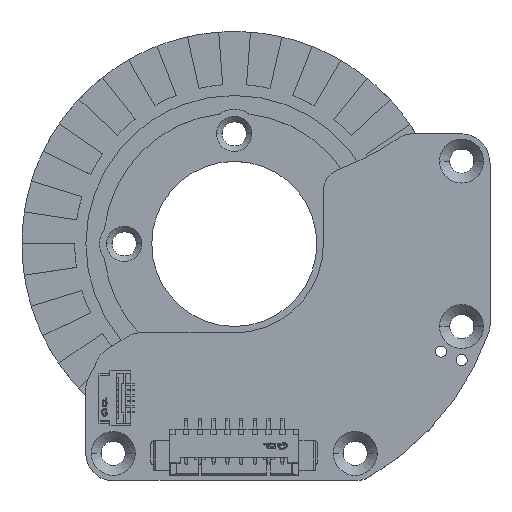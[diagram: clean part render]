
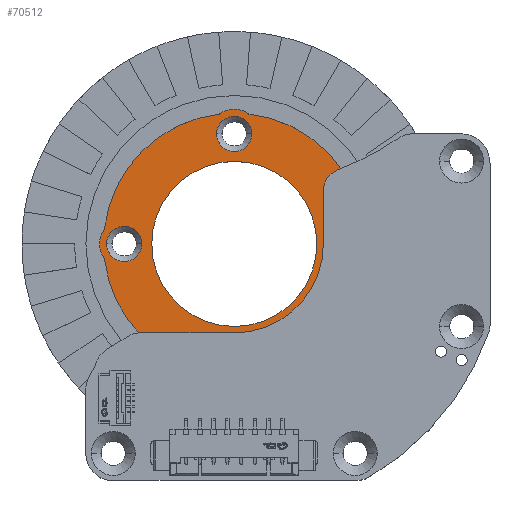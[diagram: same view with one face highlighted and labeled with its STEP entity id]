
A CAD part, top view. The second image highlights one B-rep face of the part: STEP entity #70512.
In plain terms, the highlighted planar face has unit normal (0, 0, 1) as drawn and (0, 1, 0) by its records, which use the part's own axes.
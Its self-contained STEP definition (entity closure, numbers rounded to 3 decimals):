
#67562=CARTESIAN_POINT('',(0.,1.2,0.));
#67563=DIRECTION('',(0.,-1.,0.));
#67564=DIRECTION('',(1.,0.,0.));
#67565=AXIS2_PLACEMENT_3D('',#67562,#67563,#67564);
#67570=CARTESIAN_POINT('',(0.,1.2,0.));
#67571=DIRECTION('',(0.,-1.,0.));
#67572=DIRECTION('',(-1.,0.,0.));
#67573=AXIS2_PLACEMENT_3D('',#67570,#67571,#67572);
#67872=CARTESIAN_POINT('',(10.,1.2,0.));
#67873=DIRECTION('',(0.,-1.,0.));
#67874=DIRECTION('',(1.,0.,0.));
#67875=AXIS2_PLACEMENT_3D('',#67872,#67873,#67874);
#67880=CARTESIAN_POINT('',(10.,1.2,0.));
#67881=DIRECTION('',(0.,-1.,0.));
#67882=DIRECTION('',(-1.,0.,0.));
#67883=AXIS2_PLACEMENT_3D('',#67880,#67881,#67882);
#67888=CARTESIAN_POINT('',(0.,1.2,10.));
#67889=DIRECTION('',(0.,-1.,0.));
#67890=DIRECTION('',(-1.,0.,0.));
#67891=AXIS2_PLACEMENT_3D('',#67888,#67889,#67890);
#67896=CARTESIAN_POINT('',(0.,1.2,10.));
#67897=DIRECTION('',(0.,-1.,0.));
#67898=DIRECTION('',(1.,0.,0.));
#67899=AXIS2_PLACEMENT_3D('',#67896,#67897,#67898);
#67904=CARTESIAN_POINT('',(-10.,1.2,0.));
#67905=DIRECTION('',(0.,-1.,0.));
#67906=DIRECTION('',(1.,0.,0.));
#67907=AXIS2_PLACEMENT_3D('',#67904,#67905,#67906);
#67912=CARTESIAN_POINT('',(-10.,1.2,0.));
#67913=DIRECTION('',(0.,-1.,0.));
#67914=DIRECTION('',(-1.,0.,0.));
#67915=AXIS2_PLACEMENT_3D('',#67912,#67913,#67914);
#67920=CARTESIAN_POINT('',(0.,1.2,-10.));
#67921=DIRECTION('',(0.,-1.,0.));
#67922=DIRECTION('',(-1.,0.,0.));
#67923=AXIS2_PLACEMENT_3D('',#67920,#67921,#67922);
#67928=CARTESIAN_POINT('',(0.,1.2,-10.));
#67929=DIRECTION('',(0.,-1.,0.));
#67930=DIRECTION('',(1.,0.,0.));
#67931=AXIS2_PLACEMENT_3D('',#67928,#67929,#67930);
#67944=CARTESIAN_POINT('',(10.,1.2,0.));
#67945=DIRECTION('',(0.,1.,0.));
#67946=DIRECTION('',(0.804,0.,0.594));
#67947=AXIS2_PLACEMENT_3D('',#67944,#67945,#67946);
#67952=CARTESIAN_POINT('',(-10.,1.2,0.));
#67953=DIRECTION('',(0.,1.,0.));
#67954=DIRECTION('',(-0.804,0.,-0.594));
#67955=AXIS2_PLACEMENT_3D('',#67952,#67953,#67954);
#69553=CARTESIAN_POINT('',(0.,1.2,-10.));
#69554=DIRECTION('',(0.,1.,0.));
#69555=DIRECTION('',(0.594,0.,-0.804));
#69556=AXIS2_PLACEMENT_3D('',#69553,#69554,#69555);
#69569=CARTESIAN_POINT('',(0.,1.2,0.));
#69570=DIRECTION('',(0.,1.,0.));
#69571=DIRECTION('',(-0.113,0.,-0.994));
#69572=AXIS2_PLACEMENT_3D('',#69569,#69570,#69571);
#69621=CARTESIAN_POINT('',(0.,1.2,0.));
#69622=DIRECTION('',(0.,1.,0.));
#69623=DIRECTION('',(0.994,0.,-0.113));
#69624=AXIS2_PLACEMENT_3D('',#69621,#69622,#69623);
#69636=CARTESIAN_POINT('',(0.,1.2,0.));
#69637=DIRECTION('',(0.,1.,0.));
#69638=DIRECTION('',(-0.994,0.,0.113));
#69639=AXIS2_PLACEMENT_3D('',#69636,#69637,#69638);
#69666=CARTESIAN_POINT('',(0.,1.2,0.));
#69667=DIRECTION('',(0.,1.,0.));
#69668=DIRECTION('',(0.113,0.,0.994));
#69669=AXIS2_PLACEMENT_3D('',#69666,#69667,#69668);
#69697=CARTESIAN_POINT('',(0.,1.2,10.));
#69698=DIRECTION('',(0.,1.,0.));
#69699=DIRECTION('',(-0.594,0.,0.804));
#69700=AXIS2_PLACEMENT_3D('',#69697,#69698,#69699);
#69713=CARTESIAN_POINT('',(7.505,1.2,0.));
#69714=CARTESIAN_POINT('',(-7.505,1.2,0.));
#69715=VERTEX_POINT('',#69713);
#69716=VERTEX_POINT('',#69714);
#70073=CARTESIAN_POINT('',(11.6,1.2,0.));
#70074=CARTESIAN_POINT('',(8.4,1.2,0.));
#70075=VERTEX_POINT('',#70073);
#70076=VERTEX_POINT('',#70074);
#70081=CARTESIAN_POINT('',(-1.6,1.2,10.));
#70082=CARTESIAN_POINT('',(1.6,1.2,10.));
#70083=VERTEX_POINT('',#70081);
#70084=VERTEX_POINT('',#70082);
#70089=CARTESIAN_POINT('',(-8.4,1.2,0.));
#70090=CARTESIAN_POINT('',(-11.6,1.2,0.));
#70091=VERTEX_POINT('',#70089);
#70092=VERTEX_POINT('',#70090);
#70097=CARTESIAN_POINT('',(-1.6,1.2,-10.));
#70098=CARTESIAN_POINT('',(1.6,1.2,-10.));
#70099=VERTEX_POINT('',#70097);
#70100=VERTEX_POINT('',#70098);
#70121=CARTESIAN_POINT('',(1.337,1.2,-11.81));
#70123=VERTEX_POINT('',#70121);
#70125=CARTESIAN_POINT('',(-1.337,1.2,-11.81));
#70127=VERTEX_POINT('',#70125);
#70129=CARTESIAN_POINT('',(-11.81,1.2,-1.337));
#70130=VERTEX_POINT('',#70129);
#70131=CARTESIAN_POINT('',(-11.81,1.2,1.337));
#70132=VERTEX_POINT('',#70131);
#70133=CARTESIAN_POINT('',(1.337,1.2,11.81));
#70135=VERTEX_POINT('',#70133);
#70137=CARTESIAN_POINT('',(-1.337,1.2,11.81));
#70139=VERTEX_POINT('',#70137);
#70141=CARTESIAN_POINT('',(11.81,1.2,1.337));
#70142=VERTEX_POINT('',#70141);
#70143=CARTESIAN_POINT('',(11.81,1.2,-1.337));
#70144=VERTEX_POINT('',#70143);
#70459=CARTESIAN_POINT('',(0.,1.2,0.));
#70460=DIRECTION('',(0.,1.,0.));
#70461=DIRECTION('',(0.139,0.,-0.99));
#70462=AXIS2_PLACEMENT_3D('',#70459,#70460,#70461);
#70463=PLANE('',#70462);
#70465=ORIENTED_EDGE('',*,*,#70464,.F.);
#70467=ORIENTED_EDGE('',*,*,#70466,.F.);
#70469=ORIENTED_EDGE('',*,*,#70468,.F.);
#70471=ORIENTED_EDGE('',*,*,#70470,.F.);
#70473=ORIENTED_EDGE('',*,*,#70472,.F.);
#70475=ORIENTED_EDGE('',*,*,#70474,.F.);
#70477=ORIENTED_EDGE('',*,*,#70476,.F.);
#70479=ORIENTED_EDGE('',*,*,#70478,.F.);
#70480=EDGE_LOOP('',(#70465,#70467,#70469,#70471,#70473,#70475,#70477,#70479));
#70481=FACE_OUTER_BOUND('',#70480,.F.);
#70483=ORIENTED_EDGE('',*,*,#70482,.F.);
#70485=ORIENTED_EDGE('',*,*,#70484,.F.);
#70486=EDGE_LOOP('',(#70483,#70485));
#70487=FACE_BOUND('',#70486,.F.);
#70489=ORIENTED_EDGE('',*,*,#70488,.F.);
#70491=ORIENTED_EDGE('',*,*,#70490,.F.);
#70492=EDGE_LOOP('',(#70489,#70491));
#70493=FACE_BOUND('',#70492,.F.);
#70495=ORIENTED_EDGE('',*,*,#70494,.F.);
#70497=ORIENTED_EDGE('',*,*,#70496,.F.);
#70498=EDGE_LOOP('',(#70495,#70497));
#70499=FACE_BOUND('',#70498,.F.);
#70501=ORIENTED_EDGE('',*,*,#70500,.F.);
#70503=ORIENTED_EDGE('',*,*,#70502,.F.);
#70504=EDGE_LOOP('',(#70501,#70503));
#70505=FACE_BOUND('',#70504,.F.);
#70507=ORIENTED_EDGE('',*,*,#70506,.F.);
#70509=ORIENTED_EDGE('',*,*,#70508,.F.);
#70510=EDGE_LOOP('',(#70507,#70509));
#70511=FACE_BOUND('',#70510,.F.);
#70512=ADVANCED_FACE('',(#70481,#70487,#70493,#70499,#70505,#70511),#70463,.T.);
#67566=CIRCLE('',#67565,7.505);
#67574=CIRCLE('',#67573,7.505);
#67876=CIRCLE('',#67875,1.6);
#67884=CIRCLE('',#67883,1.6);
#67892=CIRCLE('',#67891,1.6);
#67900=CIRCLE('',#67899,1.6);
#67908=CIRCLE('',#67907,1.6);
#67916=CIRCLE('',#67915,1.6);
#67924=CIRCLE('',#67923,1.6);
#67932=CIRCLE('',#67931,1.6);
#67948=CIRCLE('',#67947,2.25);
#67956=CIRCLE('',#67955,2.25);
#69557=CIRCLE('',#69556,2.25);
#69573=CIRCLE('',#69572,11.885);
#69625=CIRCLE('',#69624,11.885);
#69640=CIRCLE('',#69639,11.885);
#69670=CIRCLE('',#69669,11.885);
#69701=CIRCLE('',#69700,2.25);
#70464=EDGE_CURVE('',#70127,#70130,#69573,.T.);
#70466=EDGE_CURVE('',#70123,#70127,#69557,.T.);
#70468=EDGE_CURVE('',#70144,#70123,#69625,.T.);
#70470=EDGE_CURVE('',#70142,#70144,#67948,.T.);
#70472=EDGE_CURVE('',#70135,#70142,#69670,.T.);
#70474=EDGE_CURVE('',#70139,#70135,#69701,.T.);
#70476=EDGE_CURVE('',#70132,#70139,#69640,.T.);
#70478=EDGE_CURVE('',#70130,#70132,#67956,.T.);
#70482=EDGE_CURVE('',#69715,#69716,#67566,.T.);
#70484=EDGE_CURVE('',#69716,#69715,#67574,.T.);
#70488=EDGE_CURVE('',#70075,#70076,#67876,.T.);
#70490=EDGE_CURVE('',#70076,#70075,#67884,.T.);
#70494=EDGE_CURVE('',#70083,#70084,#67892,.T.);
#70496=EDGE_CURVE('',#70084,#70083,#67900,.T.);
#70500=EDGE_CURVE('',#70091,#70092,#67908,.T.);
#70502=EDGE_CURVE('',#70092,#70091,#67916,.T.);
#70506=EDGE_CURVE('',#70099,#70100,#67924,.T.);
#70508=EDGE_CURVE('',#70100,#70099,#67932,.T.);
